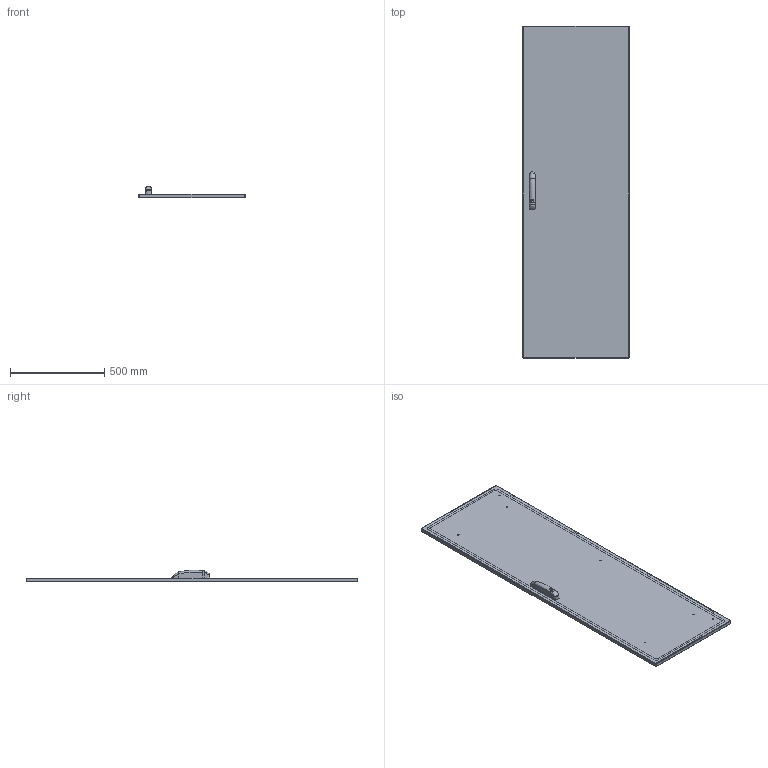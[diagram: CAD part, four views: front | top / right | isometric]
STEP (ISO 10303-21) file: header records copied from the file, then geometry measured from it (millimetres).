
FILE_DESCRIPTION (( 'STEP AP203' ), '1' );
FILE_NAME ('EUPF060180.STEP', '2021-03-15T10:39:22', ( '' ), ( '' ), 'SwSTEP 2.0', 'SolidWorks 2019', '' );
FILE_SCHEMA (( 'CONFIG_CONTROL_DESIGN' ));
Length unit declared in the file: millimetre
Products named in the file (3): AR_ENUX_Porta_laterale EUPF_2.0_0600x1800; AR_ENUX_nuova_maniglia_mesan; EUPF060180
Assembly tree (2 placements, depth 2):
  EUPF060180
    AR_ENUX_Porta_laterale EUPF_2.0_0600x1800
    AR_ENUX_nuova_maniglia_mesan
Bounding box: 562 x 1760 x 62 mm (x, y, z)
Volume: 2590544.7 mm3; surface area: 2196051.9 mm2
Topology: 6 solids, 6 shells, 180 faces, 398 edges, 238 vertices
Faces by surface type: cylinder 78, plane 47, bspline 25, cone 16, sphere 8, torus 6
Entity records: 8682 total; most frequent: CARTESIAN_POINT 4501, DIRECTION 831, ORIENTED_EDGE 772, EDGE_CURVE 386, AXIS2_PLACEMENT_3D 343, VERTEX_POINT 238, EDGE_LOOP 212, CIRCLE 183
